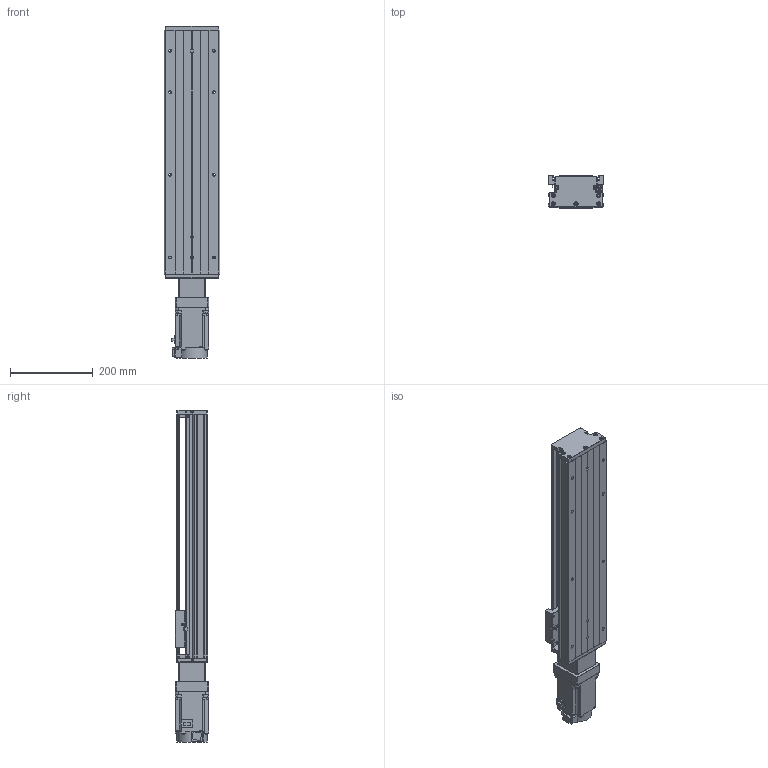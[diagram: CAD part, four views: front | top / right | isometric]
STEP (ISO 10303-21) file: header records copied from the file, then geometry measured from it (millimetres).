
FILE_DESCRIPTION (( 'STEP AP203' ), '1' );
FILE_NAME ('KTH130-450-BC-M75-C4.step', '2023-06-30T04:17:36', ( '微软用户' ), ( '微软中国' ), 'SwSTEP 2.0', 'SolidWorks 2020', '' );
FILE_SCHEMA (( 'CONFIG_CONTROL_DESIGN' ));
Length unit declared in the file: millimetre
Products named in the file (19): KTH130-005; GBT 70.1-M3℅5; hg-kn73j_-s100; GB1155-6X6; GBT77-2000 M3×3; KTH130-450-BC-M75-C4; GBT70.1 M5℅16; す晦芛蹟隊 M3℅5; GBT 70.2-M3¡Á5_M3¡Á6; GBT 70.3-M3℅8; GTH14-001_450; CTHA60-017; CTHA86-006-1_M75; KTH130-002_KTH130-002; EE_SX911P_R; CTHA86-013; KTH130-004; CTHA60-016; CTHA86-027-1
Assembly tree (52 placements, depth 2):
  KTH130-450-BC-M75-C4
    GTH14-001_450
    KTH130-002_KTH130-002
    KTH130-004
    KTH130-005
    GB1155-6X6  x2
    GBT70.1 M5℅16  x10
    GBT 70.2-M3¡Á5_M3¡Á6  x4
    CTHA60-017  x3
    EE_SX911P_R  x3
    CTHA60-016  x2
    GBT 70.1-M3℅5  x6
    GBT77-2000 M3×3  x6
    す晦芛蹟隊 M3℅5  x2
    GBT 70.3-M3℅8  x6
    CTHA86-006-1_M75
    CTHA86-013
    CTHA86-027-1
    hg-kn73j_-s100
Bounding box: 135 x 80.44 x 803.2 mm (x, y, z)
Volume: 4392459.1 mm3; surface area: 651062.4 mm2
Topology: 55 solids, 55 shells, 2250 faces, 5408 edges, 3367 vertices
Faces by surface type: plane 1240, cylinder 614, cone 280, torus 104, sphere 12
Entity records: 39846 total; most frequent: CARTESIAN_POINT 6581, DIRECTION 6551, ORIENTED_EDGE 6100, EDGE_CURVE 3050, AXIS2_PLACEMENT_3D 2273, LINE 2005, VECTOR 2005, VERTEX_POINT 1939
